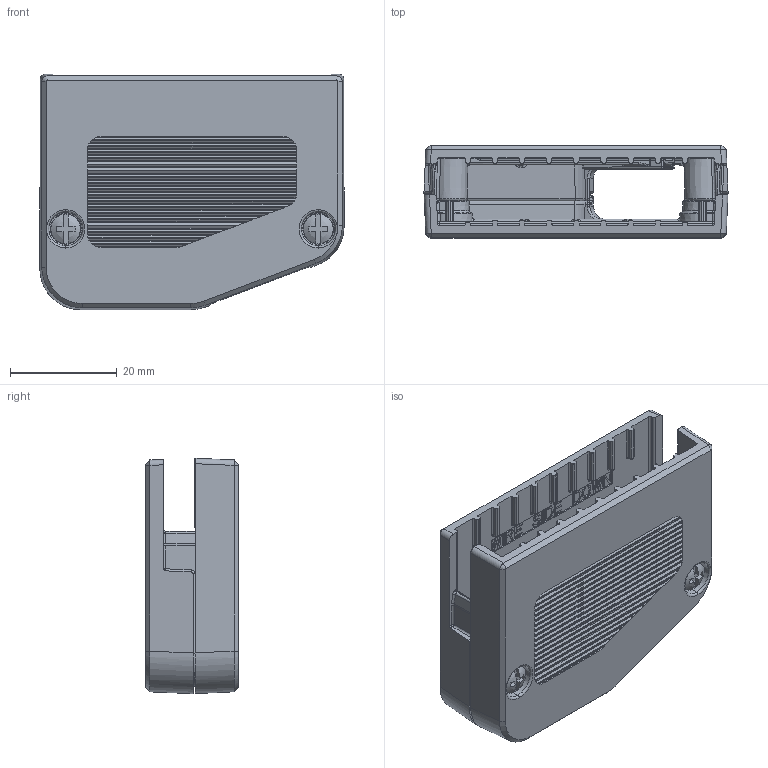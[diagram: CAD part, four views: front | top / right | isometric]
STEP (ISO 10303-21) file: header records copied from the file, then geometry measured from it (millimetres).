
FILE_DESCRIPTION((''),'2;1');
FILE_NAME('CUSTOMER_DRAWING_SW0001','2016-03-11T',('dkendric'),(''),'PRO/ENGINEER BY PARAMETRIC TECHNOLOGY CORPORATION, 2015280','PRO/ENGINEER BY PARAMETRIC TECHNOLOGY CORPORATION, 2015280','');
FILE_SCHEMA(('CONFIG_CONTROL_DESIGN'));
Products named in the file (1): CUSTOMER_DRAWING_SW0001
Bounding box: 56.91 x 17.27 x 44.04 mm (x, y, z)
Volume: 13666.2 mm3; surface area: 14228.7 mm2
Topology: 3 solids, 3 shells, 1843 faces, 4400 edges, 2621 vertices
Faces by surface type: plane 741, cylinder 539, bspline 343, sphere 91, cone 66, torus 61, extrusion 2
Entity records: 68964 total; most frequent: CARTESIAN_POINT 29040, ORIENTED_EDGE 8792, DIRECTION 7499, EDGE_CURVE 4396, VERTEX_POINT 2621, AXIS2_PLACEMENT_3D 2509, VECTOR 2481, LINE 2479
